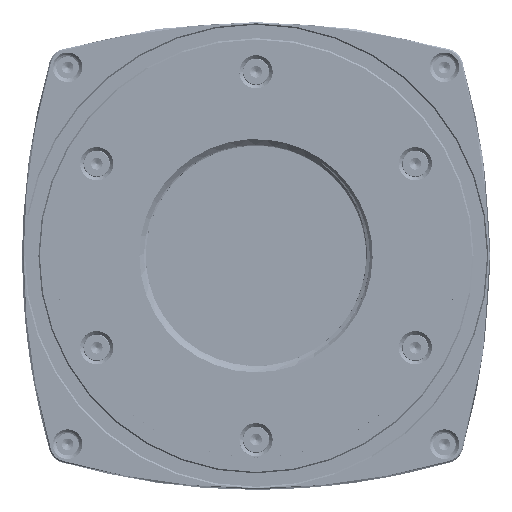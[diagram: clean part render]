
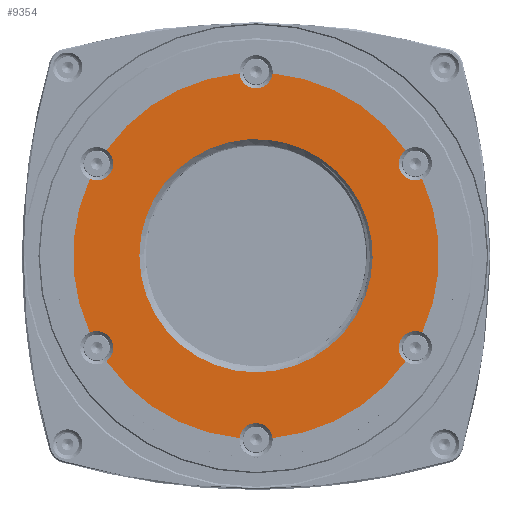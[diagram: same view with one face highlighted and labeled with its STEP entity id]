
A CAD part, top view. The second image highlights one B-rep face of the part: STEP entity #9354.
In plain terms, the highlighted planar face has unit normal (0, 0, 1).
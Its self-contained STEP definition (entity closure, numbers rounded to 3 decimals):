
#9354=ADVANCED_FACE('',(#12192,#12193),#11259,.F.);
#11259=PLANE('',#35782);
#12192=FACE_BOUND('',#13227,.T.);
#12193=FACE_BOUND('',#13228,.T.);
#13227=EDGE_LOOP('',(#16446));
#13228=EDGE_LOOP('',(#16447,#16448,#16449,#16450,#16451,#16452,#16453,#16454,
#16455,#16456,#16457,#16458));
#16446=ORIENTED_EDGE('',*,*,#29110,.T.);
#16447=ORIENTED_EDGE('',*,*,#29098,.T.);
#16448=ORIENTED_EDGE('',*,*,#29111,.T.);
#16449=ORIENTED_EDGE('',*,*,#29080,.T.);
#16450=ORIENTED_EDGE('',*,*,#29112,.F.);
#16451=ORIENTED_EDGE('',*,*,#29085,.T.);
#16452=ORIENTED_EDGE('',*,*,#29113,.F.);
#16453=ORIENTED_EDGE('',*,*,#29091,.T.);
#16454=ORIENTED_EDGE('',*,*,#29114,.F.);
#16455=ORIENTED_EDGE('',*,*,#29093,.T.);
#16456=ORIENTED_EDGE('',*,*,#29115,.F.);
#16457=ORIENTED_EDGE('',*,*,#29103,.T.);
#16458=ORIENTED_EDGE('',*,*,#29116,.F.);
#25639=VERTEX_POINT('',#83019);
#25640=VERTEX_POINT('',#83020);
#25643=VERTEX_POINT('',#83028);
#25645=VERTEX_POINT('',#83031);
#25648=VERTEX_POINT('',#83038);
#25650=VERTEX_POINT('',#83042);
#25651=VERTEX_POINT('',#83046);
#25653=VERTEX_POINT('',#83049);
#25657=VERTEX_POINT('',#83058);
#25658=VERTEX_POINT('',#83060);
#25660=VERTEX_POINT('',#83065);
#25662=VERTEX_POINT('',#83069);
#25663=VERTEX_POINT('',#83080);
#29080=EDGE_CURVE('',#25639,#25640,#33747,.T.);
#29085=EDGE_CURVE('',#25645,#25643,#33749,.T.);
#29091=EDGE_CURVE('',#25648,#25650,#33752,.T.);
#29093=EDGE_CURVE('',#25653,#25651,#33753,.T.);
#29098=EDGE_CURVE('',#25658,#25657,#33756,.T.);
#29103=EDGE_CURVE('',#25660,#25662,#33758,.T.);
#29110=EDGE_CURVE('',#25663,#25663,#33765,.T.);
#29111=EDGE_CURVE('',#25657,#25639,#33766,.T.);
#29112=EDGE_CURVE('',#25645,#25640,#33767,.T.);
#29113=EDGE_CURVE('',#25648,#25643,#33768,.T.);
#29114=EDGE_CURVE('',#25653,#25650,#33769,.T.);
#29115=EDGE_CURVE('',#25660,#25651,#33770,.T.);
#29116=EDGE_CURVE('',#25658,#25662,#33771,.T.);
#33747=CIRCLE('',#35750,20.4);
#33749=CIRCLE('',#35753,20.4);
#33752=CIRCLE('',#35757,20.4);
#33753=CIRCLE('',#35759,20.4);
#33756=CIRCLE('',#35763,20.4);
#33758=CIRCLE('',#35766,20.4);
#33765=CIRCLE('',#35775,13.);
#33766=CIRCLE('',#35776,1.85);
#33767=CIRCLE('',#35777,1.85);
#33768=CIRCLE('',#35778,1.85);
#33769=CIRCLE('',#35779,1.85);
#33770=CIRCLE('',#35780,1.85);
#33771=CIRCLE('',#35781,1.85);
#35750=AXIS2_PLACEMENT_3D('',#83018,#39886,#39887);
#35753=AXIS2_PLACEMENT_3D('',#83030,#39895,#39896);
#35757=AXIS2_PLACEMENT_3D('',#83043,#39906,#39907);
#35759=AXIS2_PLACEMENT_3D('',#83048,#39911,#39912);
#35763=AXIS2_PLACEMENT_3D('',#83059,#39921,#39922);
#35766=AXIS2_PLACEMENT_3D('',#83070,#39930,#39931);
#35775=AXIS2_PLACEMENT_3D('',#83079,#39948,#39949);
#35776=AXIS2_PLACEMENT_3D('',#83081,#39950,#39951);
#35777=AXIS2_PLACEMENT_3D('',#83082,#39952,#39953);
#35778=AXIS2_PLACEMENT_3D('',#83083,#39954,#39955);
#35779=AXIS2_PLACEMENT_3D('',#83084,#39956,#39957);
#35780=AXIS2_PLACEMENT_3D('',#83085,#39958,#39959);
#35781=AXIS2_PLACEMENT_3D('',#83086,#39960,#39961);
#35782=AXIS2_PLACEMENT_3D('',#83087,#39962,#39963);
#39886=DIRECTION('',(0.,0.,1.));
#39887=DIRECTION('',(1.,0.,0.));
#39895=DIRECTION('',(0.,0.,1.));
#39896=DIRECTION('',(1.,0.,0.));
#39906=DIRECTION('',(0.,0.,1.));
#39907=DIRECTION('',(1.,0.,0.));
#39911=DIRECTION('',(0.,0.,1.));
#39912=DIRECTION('',(1.,0.,0.));
#39921=DIRECTION('',(0.,0.,1.));
#39922=DIRECTION('',(1.,0.,0.));
#39930=DIRECTION('',(0.,0.,1.));
#39931=DIRECTION('',(1.,0.,0.));
#39948=DIRECTION('',(0.,0.,-1.));
#39949=DIRECTION('',(-1.,0.,0.));
#39950=DIRECTION('',(0.,0.,-1.));
#39951=DIRECTION('',(-1.,0.,0.));
#39952=DIRECTION('',(0.,0.,1.));
#39953=DIRECTION('',(-1.,0.,0.));
#39954=DIRECTION('',(0.,0.,1.));
#39955=DIRECTION('',(-1.,0.,0.));
#39956=DIRECTION('',(0.,0.,1.));
#39957=DIRECTION('',(-1.,0.,0.));
#39958=DIRECTION('',(0.,0.,1.));
#39959=DIRECTION('',(-1.,0.,0.));
#39960=DIRECTION('',(0.,0.,1.));
#39961=DIRECTION('',(-1.,0.,0.));
#39962=DIRECTION('',(0.,0.,-1.));
#39963=DIRECTION('',(-1.,0.,0.));
#83018=CARTESIAN_POINT('',(0.,0.,-0.1));
#83019=CARTESIAN_POINT('',(-1.841,20.317,-0.1));
#83020=CARTESIAN_POINT('',(-16.674,11.753,-0.1));
#83028=CARTESIAN_POINT('',(-18.515,-8.564,-0.1));
#83030=CARTESIAN_POINT('',(0.,0.,-0.1));
#83031=CARTESIAN_POINT('',(-18.515,8.564,-0.1));
#83038=CARTESIAN_POINT('',(-16.674,-11.753,-0.1));
#83042=CARTESIAN_POINT('',(-1.841,-20.317,-0.1));
#83043=CARTESIAN_POINT('',(0.,0.,-0.1));
#83046=CARTESIAN_POINT('',(16.674,-11.753,-0.1));
#83048=CARTESIAN_POINT('',(0.,0.,-0.1));
#83049=CARTESIAN_POINT('',(1.841,-20.317,-0.1));
#83058=CARTESIAN_POINT('',(1.841,20.317,-0.1));
#83059=CARTESIAN_POINT('',(0.,0.,-0.1));
#83060=CARTESIAN_POINT('',(16.674,11.753,-0.1));
#83065=CARTESIAN_POINT('',(18.515,-8.564,-0.1));
#83069=CARTESIAN_POINT('',(18.515,8.564,-0.1));
#83070=CARTESIAN_POINT('',(0.,0.,-0.1));
#83079=CARTESIAN_POINT('',(0.,0.,-0.1));
#83080=CARTESIAN_POINT('',(-13.,0.,-0.1));
#83081=CARTESIAN_POINT('',(0.,20.5,-0.1));
#83082=CARTESIAN_POINT('',(-17.754,10.25,-0.1));
#83083=CARTESIAN_POINT('',(-17.754,-10.25,-0.1));
#83084=CARTESIAN_POINT('',(0.,-20.5,-0.1));
#83085=CARTESIAN_POINT('',(17.754,-10.25,-0.1));
#83086=CARTESIAN_POINT('',(17.754,10.25,-0.1));
#83087=CARTESIAN_POINT('',(0.,0.,-0.1));
